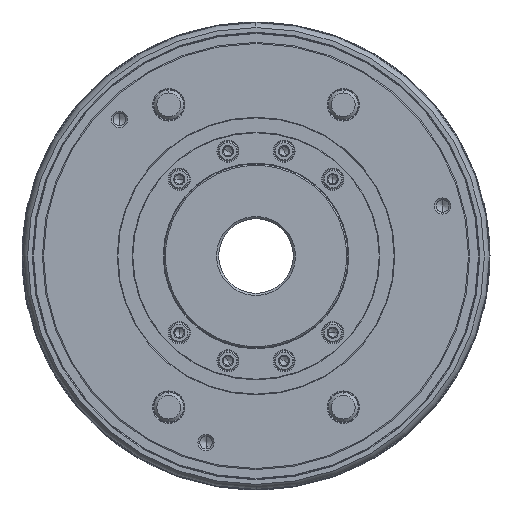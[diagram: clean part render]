
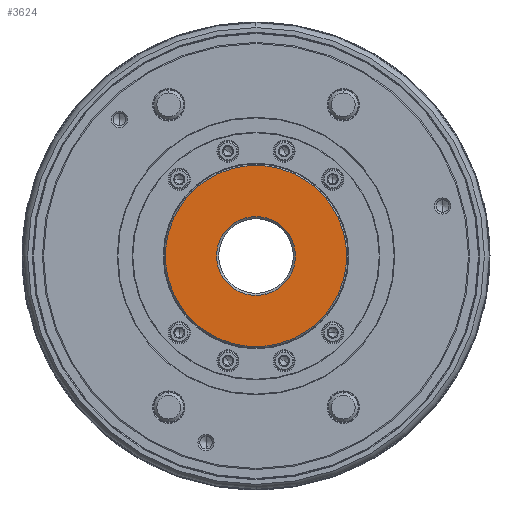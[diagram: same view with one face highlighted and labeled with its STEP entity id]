
A CAD part, left-side view. The second image highlights one B-rep face of the part: STEP entity #3624.
In plain terms, the highlighted planar face has unit normal (-1, 0, 0).
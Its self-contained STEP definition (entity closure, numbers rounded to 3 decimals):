
#1385 = CIRCLE ( 'NONE', #23589, 26.6 ) ;
#2987 = AXIS2_PLACEMENT_3D ( 'NONE', #76231, #14953, #15943 ) ;
#3027 = DIRECTION ( 'NONE',  ( 0., -0.259, -0.966 ) ) ;
#3624 = ADVANCED_FACE ( 'NONE', ( #19901, #25965 ), #95802, .T. ) ;
#4162 = EDGE_CURVE ( 'NONE', #70641, #65340, #1385, .T. ) ;
#5977 = CARTESIAN_POINT ( 'NONE',  ( -117., 6.885, 25.694 ) ) ;
#8356 = DIRECTION ( 'NONE',  ( 1., 0., 0. ) ) ;
#9834 = CARTESIAN_POINT ( 'NONE',  ( -117., 0., 0. ) ) ;
#11810 = CARTESIAN_POINT ( 'NONE',  ( -117., 0., 0. ) ) ;
#12144 = EDGE_CURVE ( 'NONE', #46171, #77665, #94430, .T. ) ;
#14850 = AXIS2_PLACEMENT_3D ( 'NONE', #50543, #19403, #35454 ) ;
#14953 = DIRECTION ( 'NONE',  ( 1., 0., 0. ) ) ;
#15943 = DIRECTION ( 'NONE',  ( 0., -0.259, -0.966 ) ) ;
#19403 = DIRECTION ( 'NONE',  ( -1., 0., 0. ) ) ;
#19901 = FACE_BOUND ( 'NONE', #86595, .T. ) ;
#21380 = AXIS2_PLACEMENT_3D ( 'NONE', #11810, #26871, #33921 ) ;
#23589 = AXIS2_PLACEMENT_3D ( 'NONE', #55765, #64305, #3027 ) ;
#25965 = FACE_OUTER_BOUND ( 'NONE', #27930, .T. ) ;
#26185 = CIRCLE ( 'NONE', #95140, 61. ) ;
#26871 = DIRECTION ( 'NONE',  ( 1., 0., 0. ) ) ;
#27930 = EDGE_LOOP ( 'NONE', ( #81331, #29347 ) ) ;
#28196 = ORIENTED_EDGE ( 'NONE', *, *, #4162, .T. ) ;
#29347 = ORIENTED_EDGE ( 'NONE', *, *, #12144, .F. ) ;
#33921 = DIRECTION ( 'NONE',  ( 0., -0.259, -0.966 ) ) ;
#34353 = CARTESIAN_POINT ( 'NONE',  ( -117., -6.885, -25.694 ) ) ;
#35454 = DIRECTION ( 'NONE',  ( 0., 0.259, 0.966 ) ) ;
#40446 = DIRECTION ( 'NONE',  ( 0., -0.259, -0.966 ) ) ;
#43308 = EDGE_CURVE ( 'NONE', #65340, #70641, #64716, .T. ) ;
#46171 = VERTEX_POINT ( 'NONE', #57643 ) ;
#50543 = CARTESIAN_POINT ( 'NONE',  ( -117., 25.694, -6.885 ) ) ;
#55765 = CARTESIAN_POINT ( 'NONE',  ( -117., 0., 0. ) ) ;
#57643 = CARTESIAN_POINT ( 'NONE',  ( -117., 15.788, 58.921 ) ) ;
#64248 = EDGE_CURVE ( 'NONE', #77665, #46171, #26185, .T. ) ;
#64305 = DIRECTION ( 'NONE',  ( 1., 0., 0. ) ) ;
#64716 = CIRCLE ( 'NONE', #21380, 26.6 ) ;
#65340 = VERTEX_POINT ( 'NONE', #5977 ) ;
#70641 = VERTEX_POINT ( 'NONE', #34353 ) ;
#76231 = CARTESIAN_POINT ( 'NONE',  ( -117., 0., 0. ) ) ;
#77665 = VERTEX_POINT ( 'NONE', #83723 ) ;
#81331 = ORIENTED_EDGE ( 'NONE', *, *, #64248, .F. ) ;
#83723 = CARTESIAN_POINT ( 'NONE',  ( -117., -15.788, -58.921 ) ) ;
#84545 = ORIENTED_EDGE ( 'NONE', *, *, #43308, .T. ) ;
#86595 = EDGE_LOOP ( 'NONE', ( #84545, #28196 ) ) ;
#94430 = CIRCLE ( 'NONE', #2987, 61. ) ;
#95140 = AXIS2_PLACEMENT_3D ( 'NONE', #9834, #8356, #40446 ) ;
#95802 = PLANE ( 'NONE',  #14850 ) ;
